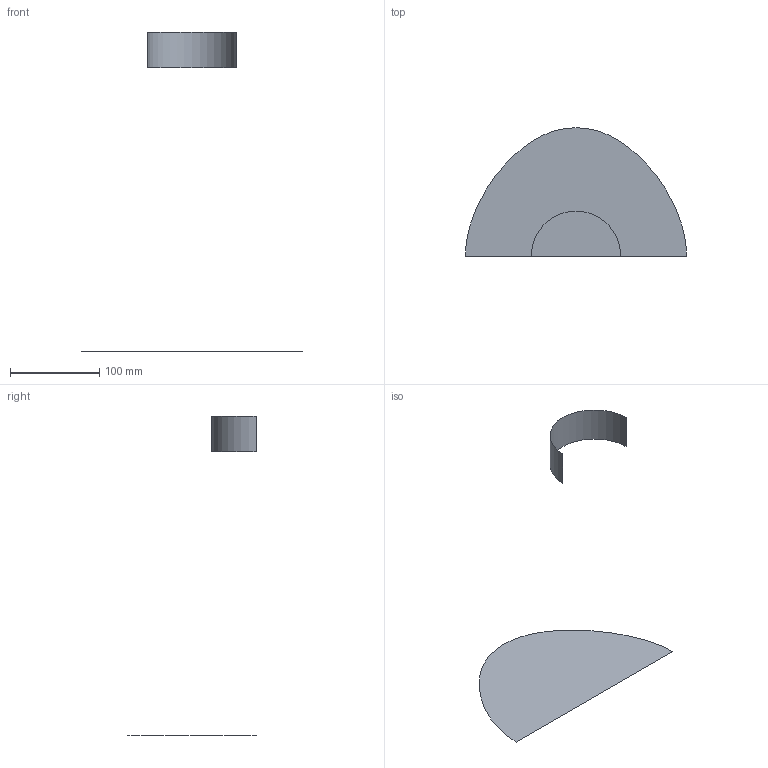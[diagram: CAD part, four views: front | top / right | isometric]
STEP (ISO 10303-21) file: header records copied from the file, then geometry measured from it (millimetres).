
FILE_DESCRIPTION(('CATIA V5 STEP Exchange'),'2;1');
FILE_NAME('C:\_Andres\UNIVERSIDAD\IQS\ASIGNATURAS\DAO\Controles\1617\c1\1original\Sastre_Cabrerizo_Ej00-base_v34.stp','2017-02-06T16:27:57+00:00',('none'),('none'),'CATIA Version 5-6 Release 2014 SP1 HF18','CATIA V5 STEP AP203','none');
FILE_SCHEMA(('CONFIG_CONTROL_DESIGN'));
Length unit declared in the file: millimetre
Products named in the file (1): Sastre_Cabrerizo_Ej00-base_v34
Bounding box: 248 x 144 x 358 mm (x, y, z)
Surface area: 33156.4 mm2 (no closed solid volume)
Topology: 0 solids, 2 shells, 2 faces, 16 edges, 26 vertices
Faces by surface type: cylinder 1, plane 1
Entity records: 230 total; most frequent: CARTESIAN_POINT 78, DIRECTION 16, COMPOSITE_CURVE_SEGMENT 9, TRIMMED_CURVE 9, AXIS2_PLACEMENT_3D 8, COMPOSITE_CURVE 7, ORIENTED_EDGE 7, EDGE_CURVE 7
